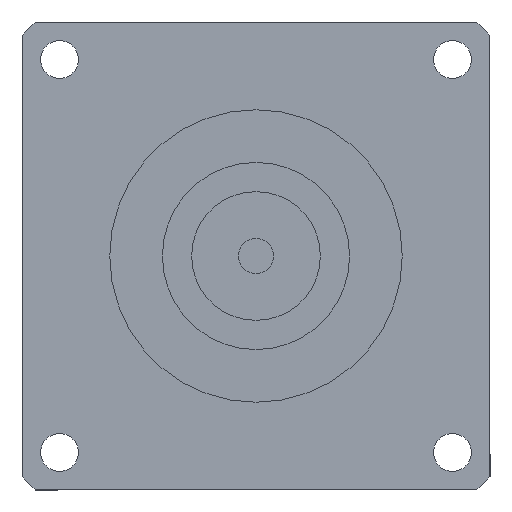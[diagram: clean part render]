
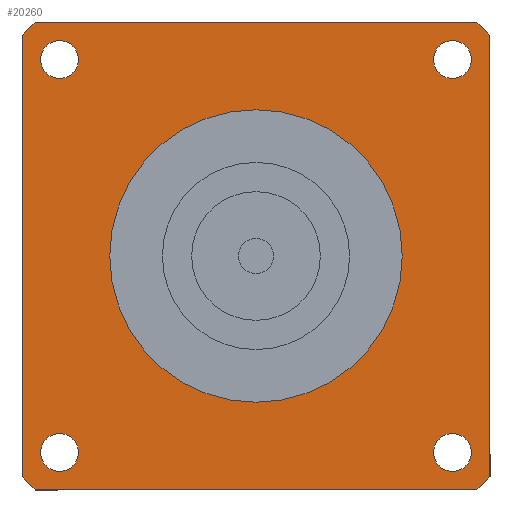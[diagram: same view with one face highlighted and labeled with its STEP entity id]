
A CAD part, left-side view. The second image highlights one B-rep face of the part: STEP entity #20260.
In plain terms, the highlighted planar face has unit normal (-1, 0, 0) as drawn and (0, 0, -1) by its records, which use the part's own axes.
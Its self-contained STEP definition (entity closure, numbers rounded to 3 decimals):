
#11110=CARTESIAN_POINT('',(-40.,-37.749,-60.));
#11120=VERTEX_POINT('',#11110);
#11280=CARTESIAN_POINT('',(-37.749,-40.,-60.));
#11290=VERTEX_POINT('',#11280);
#11320=CARTESIAN_POINT('',(0.,0.,
-60.));
#11330=DIRECTION('',(0.,0.,1.));
#11340=DIRECTION('',(0.,-1.,0.));
#11350=AXIS2_PLACEMENT_3D('',#11320,#11330,#11340);
#11360=CIRCLE('',#11350,55.);
#11370=EDGE_CURVE('',#11120,#11290,#11360,.T.);
#12870=CARTESIAN_POINT('',(-40.,37.749,-60.));
#12880=VERTEX_POINT('',#12870);
#12980=CARTESIAN_POINT('',(-40.,40.,-60.));
#12990=DIRECTION('',(0.,-1.,0.));
#13000=VECTOR('',#12990,1000.);
#13010=LINE('',#12980,#13000);
#13020=EDGE_CURVE('',#12880,#11120,#13010,.T.);
#17850=CARTESIAN_POINT('',(-37.749,40.,-60.));
#17860=VERTEX_POINT('',#17850);
#17910=CARTESIAN_POINT('',(0.,0.,
-60.));
#17920=DIRECTION('',(0.,0.,1.));
#17930=DIRECTION('',(0.,-1.,0.));
#17940=AXIS2_PLACEMENT_3D('',#17910,#17920,#17930);
#17950=CIRCLE('',#17940,55.);
#17960=EDGE_CURVE('',#17860,#12880,#17950,.T.);
#18100=CARTESIAN_POINT('',(37.749,40.,-60.));
#18110=VERTEX_POINT('',#18100);
#18160=CARTESIAN_POINT('',(40.,40.,-60.));
#18170=DIRECTION('',(-1.,0.,0.));
#18180=VECTOR('',#18170,1000.);
#18190=LINE('',#18160,#18180);
#18200=EDGE_CURVE('',#18110,#17860,#18190,.T.);
#18310=CARTESIAN_POINT('',(0.,0.,
-60.));
#18320=DIRECTION('',(0.,0.,1.));
#18330=DIRECTION('',(0.,-1.,0.));
#18340=AXIS2_PLACEMENT_3D('',#18310,#18320,#18330);
#18350=CIRCLE('',#18340,55.);
#18360=CARTESIAN_POINT('',(40.,37.749,-60.));
#18370=VERTEX_POINT('',#18360);
#18380=EDGE_CURVE('',#18370,#18110,#18350,.T.);
#18590=CARTESIAN_POINT('',(40.,-37.749,-60.));
#18600=VERTEX_POINT('',#18590);
#18650=CARTESIAN_POINT('',(40.,-40.,-60.));
#18660=DIRECTION('',(0.,1.,0.));
#18670=VECTOR('',#18660,1000.);
#18680=LINE('',#18650,#18670);
#18690=EDGE_CURVE('',#18600,#18370,#18680,.T.);
#18830=CARTESIAN_POINT('',(37.749,-40.,-60.));
#18840=VERTEX_POINT('',#18830);
#18890=CARTESIAN_POINT('',(0.,0.,
-60.));
#18900=DIRECTION('',(0.,0.,1.));
#18910=DIRECTION('',(0.,-1.,0.));
#18920=AXIS2_PLACEMENT_3D('',#18890,#18900,#18910);
#18930=CIRCLE('',#18920,55.);
#18940=EDGE_CURVE('',#18840,#18600,#18930,.T.);
#19070=CARTESIAN_POINT('',(-40.,-40.,-60.));
#19080=DIRECTION('',(1.,0.,0.));
#19090=VECTOR('',#19080,1000.);
#19100=LINE('',#19070,#19090);
#19110=EDGE_CURVE('',#11290,#18840,#19100,.T.);
#19160=CARTESIAN_POINT('',(-40.,40.,-60.));
#19170=DIRECTION('',(0.,0.,1.));
#19180=DIRECTION('',(-1.,0.,0.));
#19190=AXIS2_PLACEMENT_3D('',#19160,#19170,#19180);
#19200=PLANE('',#19190);
#19210=CARTESIAN_POINT('',(33.588,-33.588,-60.));
#19220=DIRECTION('',(0.,0.,-1.));
#19230=DIRECTION('',(1.,0.,0.));
#19240=AXIS2_PLACEMENT_3D('',#19210,#19220,#19230);
#19250=CIRCLE('',#19240,3.25);
#19260=CARTESIAN_POINT('',(36.838,-33.588,-60.));
#19270=VERTEX_POINT('',#19260);
#19280=CARTESIAN_POINT('',(33.588,-36.838,-60.));
#19290=VERTEX_POINT('',#19280);
#19300=EDGE_CURVE('',#19270,#19290,#19250,.T.);
#19310=ORIENTED_EDGE('',*,*,#19300,.F.);
#19320=CARTESIAN_POINT('',(33.588,-30.338,-60.));
#19330=VERTEX_POINT('',#19320);
#19340=EDGE_CURVE('',#19290,#19330,#19250,.T.);
#19350=ORIENTED_EDGE('',*,*,#19340,.F.);
#19360=EDGE_CURVE('',#19330,#19270,#19250,.T.);
#19370=ORIENTED_EDGE('',*,*,#19360,.F.);
#19380=EDGE_LOOP('',(#19370,#19350,#19310));
#19390=FACE_BOUND('',#19380,.T.);
#19400=CARTESIAN_POINT('',(33.588,33.588,-60.));
#19410=DIRECTION('',(0.,0.,-1.));
#19420=DIRECTION('',(0.,1.,0.));
#19430=AXIS2_PLACEMENT_3D('',#19400,#19410,#19420);
#19440=CIRCLE('',#19430,3.25);
#19450=CARTESIAN_POINT('',(33.588,36.838,-60.));
#19460=VERTEX_POINT('',#19450);
#19470=CARTESIAN_POINT('',(36.838,33.588,-60.));
#19480=VERTEX_POINT('',#19470);
#19490=EDGE_CURVE('',#19460,#19480,#19440,.T.);
#19500=ORIENTED_EDGE('',*,*,#19490,.F.);
#19510=CARTESIAN_POINT('',(30.338,33.588,-60.));
#19520=VERTEX_POINT('',#19510);
#19530=EDGE_CURVE('',#19480,#19520,#19440,.T.);
#19540=ORIENTED_EDGE('',*,*,#19530,.F.);
#19550=EDGE_CURVE('',#19520,#19460,#19440,.T.);
#19560=ORIENTED_EDGE('',*,*,#19550,.F.);
#19570=EDGE_LOOP('',(#19560,#19540,#19500));
#19580=FACE_BOUND('',#19570,.T.);
#19590=CARTESIAN_POINT('',(-33.588,33.588,-60.));
#19600=DIRECTION('',(0.,0.,-1.));
#19610=DIRECTION('',(-1.,0.,0.));
#19620=AXIS2_PLACEMENT_3D('',#19590,#19600,#19610);
#19630=CIRCLE('',#19620,3.25);
#19640=CARTESIAN_POINT('',(-36.838,33.588,-60.));
#19650=VERTEX_POINT('',#19640);
#19660=CARTESIAN_POINT('',(-33.588,36.838,-60.));
#19670=VERTEX_POINT('',#19660);
#19680=EDGE_CURVE('',#19650,#19670,#19630,.T.);
#19690=ORIENTED_EDGE('',*,*,#19680,.F.);
#19700=CARTESIAN_POINT('',(-33.588,30.338,-60.));
#19710=VERTEX_POINT('',#19700);
#19720=EDGE_CURVE('',#19670,#19710,#19630,.T.);
#19730=ORIENTED_EDGE('',*,*,#19720,.F.);
#19740=EDGE_CURVE('',#19710,#19650,#19630,.T.);
#19750=ORIENTED_EDGE('',*,*,#19740,.F.);
#19760=EDGE_LOOP('',(#19750,#19730,#19690));
#19770=FACE_BOUND('',#19760,.T.);
#19780=CARTESIAN_POINT('',(-33.588,-33.588,-60.));
#19790=DIRECTION('',(0.,0.,-1.));
#19800=DIRECTION('',(0.,-1.,0.));
#19810=AXIS2_PLACEMENT_3D('',#19780,#19790,#19800);
#19820=CIRCLE('',#19810,3.25);
#19830=CARTESIAN_POINT('',(-33.588,-36.838,-60.));
#19840=VERTEX_POINT('',#19830);
#19850=CARTESIAN_POINT('',(-36.838,-33.588,-60.));
#19860=VERTEX_POINT('',#19850);
#19870=EDGE_CURVE('',#19840,#19860,#19820,.T.);
#19880=ORIENTED_EDGE('',*,*,#19870,.F.);
#19890=CARTESIAN_POINT('',(-30.338,-33.588,-60.));
#19900=VERTEX_POINT('',#19890);
#19910=EDGE_CURVE('',#19860,#19900,#19820,.T.);
#19920=ORIENTED_EDGE('',*,*,#19910,.F.);
#19930=EDGE_CURVE('',#19900,#19840,#19820,.T.);
#19940=ORIENTED_EDGE('',*,*,#19930,.F.);
#19950=EDGE_LOOP('',(#19940,#19920,#19880));
#19960=FACE_BOUND('',#19950,.T.);
#19970=ORIENTED_EDGE('',*,*,#11370,.F.);
#19980=ORIENTED_EDGE('',*,*,#19110,.F.);
#19990=ORIENTED_EDGE('',*,*,#18940,.F.);
#20000=ORIENTED_EDGE('',*,*,#18690,.F.);
#20010=ORIENTED_EDGE('',*,*,#18380,.F.);
#20020=ORIENTED_EDGE('',*,*,#18200,.F.);
#20030=ORIENTED_EDGE('',*,*,#17960,.F.);
#20040=ORIENTED_EDGE('',*,*,#13020,.F.);
#20050=EDGE_LOOP('',(#20040,#20030,#20020,#20010,#20000,#19990,#19980,
#19970));
#20060=FACE_OUTER_BOUND('',#20050,.T.);
#20070=CARTESIAN_POINT('',(0.,0.,
-60.));
#20080=DIRECTION('',(0.,0.,1.));
#20090=DIRECTION('',(0.,-1.,0.));
#20100=AXIS2_PLACEMENT_3D('',#20070,#20080,#20090);
#20110=CIRCLE('',#20100,25.);
#20120=CARTESIAN_POINT('',(25.,0.,-60.));
#20130=VERTEX_POINT('',#20120);
#20140=CARTESIAN_POINT('',(-25.,0.,-60.));
#20150=VERTEX_POINT('',#20140);
#20160=EDGE_CURVE('',#20130,#20150,#20110,.T.);
#20170=ORIENTED_EDGE('',*,*,#20160,.T.);
#20180=CARTESIAN_POINT('',(0.,-25.,-60.));
#20190=VERTEX_POINT('',#20180);
#20200=EDGE_CURVE('',#20190,#20130,#20110,.T.);
#20210=ORIENTED_EDGE('',*,*,#20200,.T.);
#20220=EDGE_CURVE('',#20150,#20190,#20110,.T.);
#20230=ORIENTED_EDGE('',*,*,#20220,.T.);
#20240=EDGE_LOOP('',(#20230,#20210,#20170));
#20250=FACE_BOUND('',#20240,.T.);
#20260=ADVANCED_FACE('',(#19390,#19580,#19770,#19960,#20060,#20250),
#19200,.F.);
